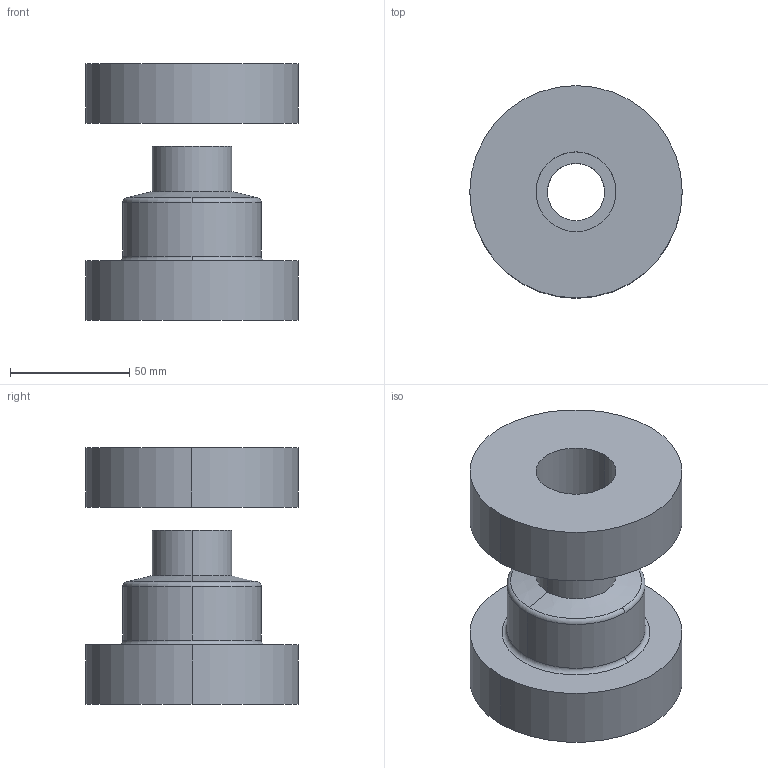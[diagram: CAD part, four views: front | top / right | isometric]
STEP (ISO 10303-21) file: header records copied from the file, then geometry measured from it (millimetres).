
FILE_DESCRIPTION(('STEP AP214'),'1');
FILE_NAME('U:/ReDesign 2018/CAD/UMount_6004x_08082018.stp','2018-08-08T14:50:11',(' '),(' '),'Spatial InterOp 3D',' ',' ');
FILE_SCHEMA(('automotive_design'));
Length unit declared in the file: millimetre
Products named in the file (2): 1; 2
Bounding box: 89 x 89 x 107.67 mm (x, y, z)
Volume: 346560.5 mm3; surface area: 50878.2 mm2
Topology: 2 solids, 2 shells, 23 faces, 53 edges, 35 vertices
Faces by surface type: cylinder 12, plane 5, torus 4, cone 2
Entity records: 716 total; most frequent: DIRECTION 142, CARTESIAN_POINT 113, ORIENTED_EDGE 106, AXIS2_PLACEMENT_3D 64, EDGE_CURVE 53, CIRCLE 39, VERTEX_POINT 35, EDGE_LOOP 28
